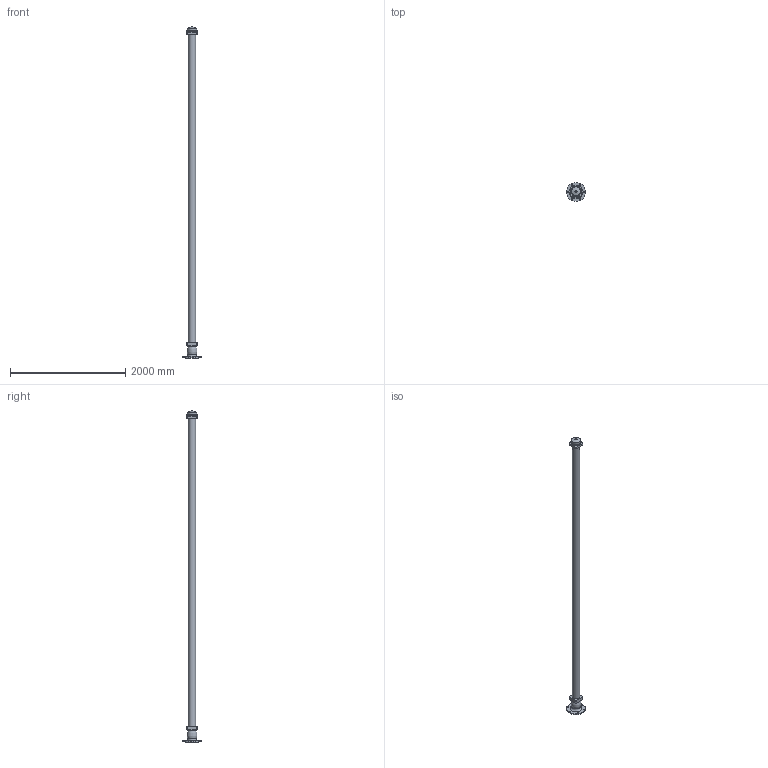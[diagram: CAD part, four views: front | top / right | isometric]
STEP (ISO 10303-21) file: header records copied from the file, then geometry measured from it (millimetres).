
FILE_DESCRIPTION(('STEP AP203'), '1');
FILE_NAME('Ãèäðàíò GPP 5750 ïîæàðíûé ïîäçåìíûé', '', ('UNSPECIFIED'), ('UNSPECIFIED'), 'ASCON STEP Converter 1.6', 'ASCON Math Kernel', '');
FILE_SCHEMA(('CONFIG_CONTROL_DESIGN'));
Length unit declared in the file: millimetre
Bounding box: 330 x 330 x 5772 mm (x, y, z)
Volume: 79820449.6 mm3; surface area: 2630593.3 mm2
Topology: 1 solids, 1 shells, 47 faces, 104 edges, 67 vertices
Faces by surface type: plane 26, cylinder 12, cone 7, torus 2
Full cylindrical faces by diameter (mm): 20 x1, 22 x6, 129 x1, 142 x1, 143 x1, 157.302 x1, 160 x1
Entity records: 1617 total; most frequent: DIRECTION 212, CARTESIAN_POINT 196, ORIENTED_EDGE 164, EDGE_LOOP 88, AXIS2_PLACEMENT_3D 82, EDGE_CURVE 82, VERTEX_POINT 66, COLOUR_RGB 48
